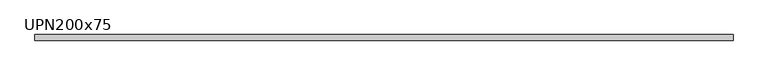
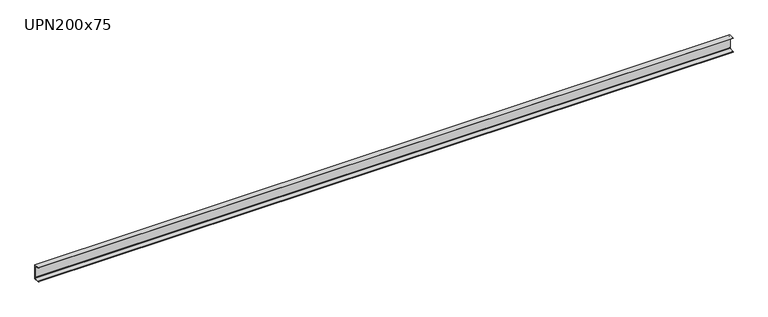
"""IFC4 building model written with IfcOpenShell, lengths in millimetres: beam geometry, M_MC Shapes : UPN200x75."""

from ifc_helpers import new_model, si_unit, point, frame, frame_2d, origin, place, context, project, spatial, polyline, circle_curve, trimmed, segment, composite_curve, outline, extrude, source, transform, mapped, element, save


def upn200x75_ea87a1d8(model_context):
    return source(origin(), model_context, "Body", "SweptSolid", [
        extrude(outline(composite_curve([segment(polyline([(10.9, 100.0), (10.9, -100.0), (-64.1, -100.0), (-64.1, -99.0253247)]), True, "CONTINUOUS"), segment(trimmed(circle_curve(frame_2d((-60.15, -99.0253247)), 3.95), [point((-64.1, -99.0253247))], [point((-60.7993773, -95.1290689))], False, "CARTESIAN"), True, "CONTINUOUS"), segment(polyline([(-60.7993773, -95.1290689), (-0.2512455, -85.0376935)]), True, "CONTINUOUS"), segment(trimmed(circle_curve(frame_2d((-1.55, -77.2451819)), 7.9), [point((-0.2512455, -85.0376935))], [point((6.35, -77.2451819))], True, "CARTESIAN"), True, "CONTINUOUS"), segment(polyline([(6.35, -77.2451819), (6.35, 77.2451819)]), True, "CONTINUOUS"), segment(trimmed(circle_curve(frame_2d((-1.55, 77.2451819)), 7.9), [point((6.35, 77.2451819))], [point((-0.2512455, 85.0376935))], True, "CARTESIAN"), True, "CONTINUOUS"), segment(polyline([(-0.2512455, 85.0376935), (-60.7993773, 95.1290689)]), True, "CONTINUOUS"), segment(trimmed(circle_curve(frame_2d((-60.15, 99.0253247)), 3.95), [point((-60.7993773, 95.1290689))], [point((-64.1, 99.0253247))], False, "CARTESIAN"), True, "CONTINUOUS"), segment(polyline([(-64.1, 99.0253247), (-64.1, 100.0), (10.9, 100.0)]), True, "CONTINUOUS")], self_intersect=False)), frame((-4549.3, 0.0, 0.0), z_axis=(1.0, 0.0, 0.0), x_axis=(0.0, 1.0, 0.0)), (0.0, 0.0, 1.0), 9312.2),
    ])


if __name__ == "__main__":
    model = new_model("IFC4")
    model_context = context("Model", 3, world=origin())
    ifc_project = project(units=[si_unit("LENGTHUNIT", "METRE", prefix="MILLI")], contexts=[model_context])
    site = spatial("IfcSite", under=ifc_project)
    building = spatial("IfcBuilding", under=site)
    placement = place(None, origin())
    upn200x75_shape = upn200x75_ea87a1d8(model_context)
    element("IfcBeam", 1, ObjectType="M_MC Shapes : UPN200x75", at=placement, inside=building, context=model_context, shape_type="MappedRepresentation", body=[
        mapped(upn200x75_shape, transform((0.0, 0.0, 0.0), x_axis=(1.0, 0.0, 0.0), y_axis=(0.0, 1.0, 0.0), z_axis=(0.0, 0.0, 1.0))),
    ])
    save(model, "model.ifc")
